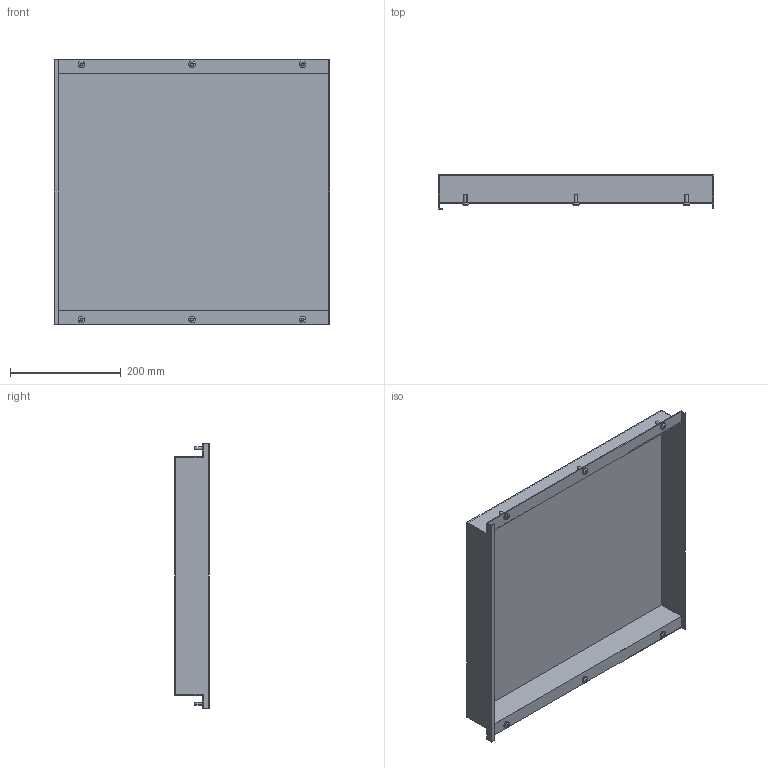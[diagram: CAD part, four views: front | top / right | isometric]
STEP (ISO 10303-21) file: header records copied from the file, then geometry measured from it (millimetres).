
FILE_DESCRIPTION (( 'STEP AP214' ), '1' );
FILE_NAME ('FO-00-PVSU-050-060 Ïëàñòðîí âíóòðåííèé óãëóáëåííûé 500õ600õ50.STEP', '2025-09-29T14:01:29', ( '' ), ( '' ), 'SwSTEP 2.0', 'SolidWorks 2023', '' );
FILE_SCHEMA (( 'AUTOMOTIVE_DESIGN' ));
Length unit declared in the file: millimetre
Products named in the file (3): FO-00-PVSU-050-060 Пластрон внутренний углубленный 500х600х50; Винты М6х16 50-60
Assembly tree (3 placements, depth 2):
  FO-00-PVSU-050-060 Пластрон внутренний углубленный 500х600х50
    FO-00-PVSU-050-060 Пластрон внутренний углубленный 500х600х50
    Винты М6х16 50-60  x2
Bounding box: 498 x 62.5 x 479 mm (x, y, z)
Volume: 485803.5 mm3; surface area: 694224.2 mm2
Topology: 7 solids, 7 shells, 220 faces, 576 edges, 376 vertices
Faces by surface type: cylinder 132, plane 58, cone 18, bspline 12
Entity records: 4662 total; most frequent: CARTESIAN_POINT 1058, ORIENTED_EDGE 744, DIRECTION 722, EDGE_CURVE 372, AXIS2_PLACEMENT_3D 262, VERTEX_POINT 244, VECTOR 198, LINE 198
